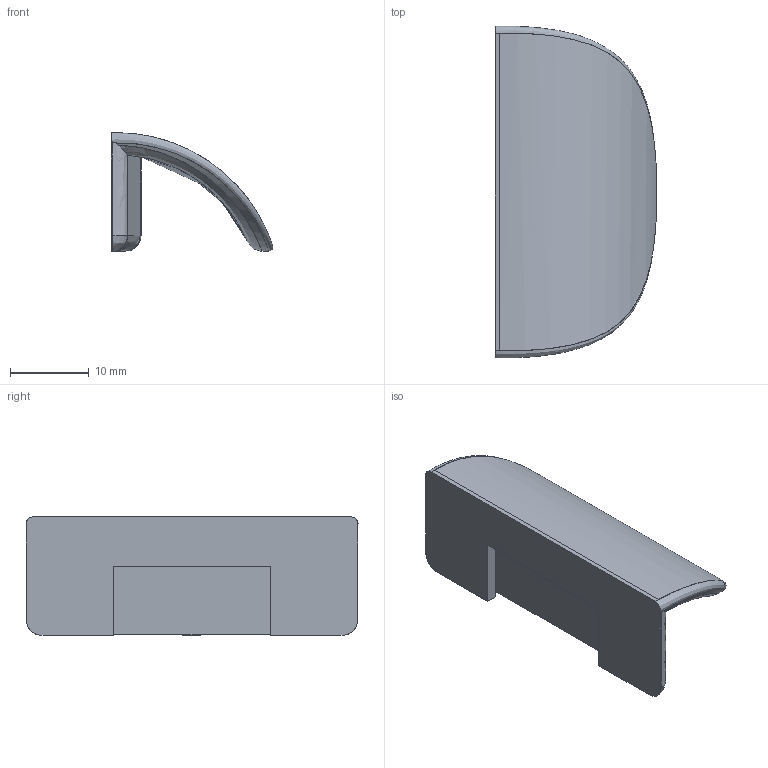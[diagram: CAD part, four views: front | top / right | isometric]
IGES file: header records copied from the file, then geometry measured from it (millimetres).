
Start section: C
Global section: file name: 8113-42.igs; native system: By Siemens PLM Incorporated; preprocessor: XPlus GENERIC/IGES 16.0.42; author: Author; organization: Title; date: 20190519.071329; units: millimetre
Bounding box: 20.56 x 42.23 x 15.11 mm (x, y, z)
Surface area: 3385.1 mm2 (no closed solid volume)
Topology: 0 solids, 0 shells, 35 faces, 196 edges, 194 vertices
Faces by surface type: bspline 35
